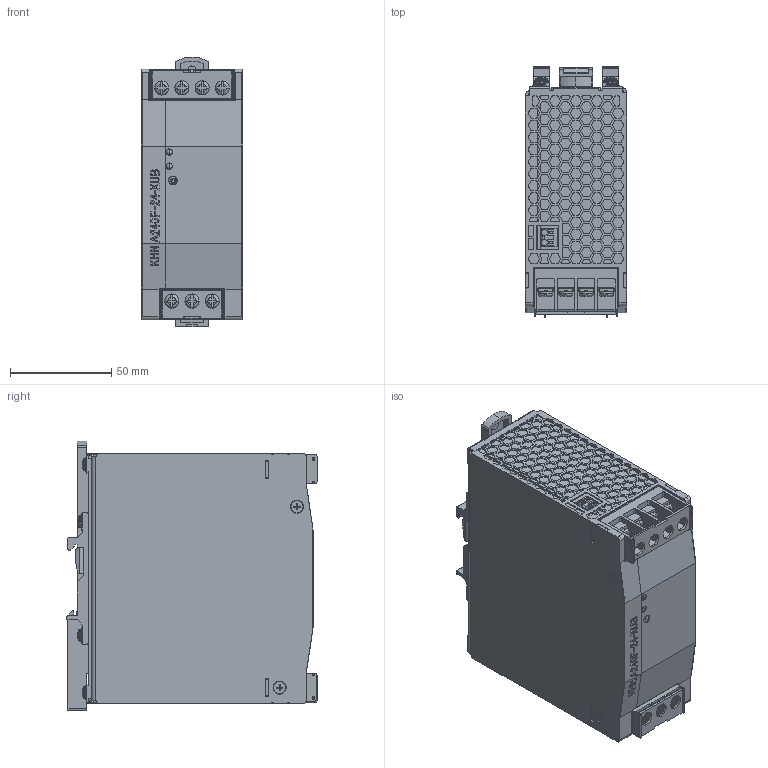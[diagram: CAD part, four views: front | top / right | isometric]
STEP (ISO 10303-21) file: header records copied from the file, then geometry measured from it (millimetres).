
FILE_DESCRIPTION(('CoCreate Modeling STEP Export'),'2;1');
FILE_NAME('khna240f-xub(stp).stp','2016-11-30T15:51:43',(''),(''),'CoCreate Modeling STEP processor for AP214 (Solid Model)','CoCreate Modeling 17.0 01-Apr-2010 (C) Parametric Technology GmbH','');
FILE_SCHEMA(('AUTOMOTIVE_DESIGN { 1 0 10303 214 1 1 1 1 }'));
Products named in the file (2): khna240f-xub
Assembly tree (1 placements, depth 2):
  khna240f-xub
    khna240f-xub
Bounding box: 50 x 123.7 x 133.5 mm (x, y, z)
Volume: 648804.5 mm3; surface area: 105305 mm2
Topology: 1 solids, 20 shells, 6645 faces, 19567 edges, 12855 vertices
Faces by surface type: plane 4013, cylinder 2294, cone 190, torus 72, bspline 59, sphere 16, extrusion 1
Entity records: 244832 total; most frequent: CARTESIAN_POINT 45365, ORIENTED_EDGE 39134, DIRECTION 34891, EDGE_CURVE 19567, VECTOR 13413, LINE 13412, VERTEX_POINT 12855, AXIS2_PLACEMENT_3D 10739
